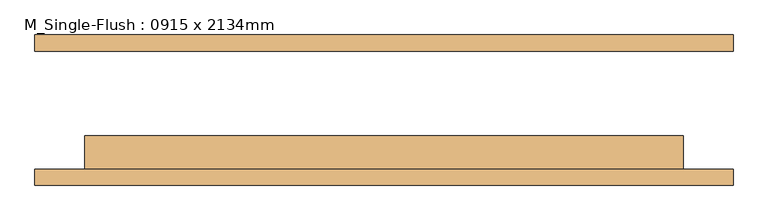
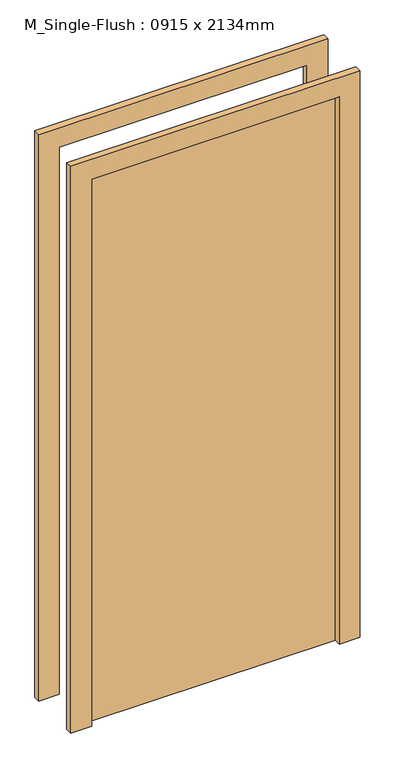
"""IFC4 building model written with IfcOpenShell, lengths in millimetres: door geometry, M_Single-Flush : 0915 x 2134mm."""

from ifc_helpers import new_model, si_unit, frame, origin, origin_with_axes, place, context, project, spatial, polyline, outline, extrude, source, transform, mapped, element, save


def m_single_flush_0915_x_2134mm_5c733ab1(model_context):
    return source(origin(), model_context, "Body", "SweptSolid", [
        extrude(outline(polyline([(2210.0, -533.5), (0.0, -533.5), (0.0, -457.5), (2134.0, -457.5), (2134.0, 457.5), (0.0, 457.5), (0.0, 533.5), (2210.0, 533.5), (2210.0, -533.5)])), frame((0.0, -115.0, 0.0), z_axis=(0.0, 1.0, 0.0), x_axis=(0.0, 0.0, 1.0)), (0.0, 0.0, 1.0), 25.0),
        extrude(outline(polyline([(2210.0, 533.5), (2210.0, -533.5), (0.0, -533.5), (0.0, -457.5), (2134.0, -457.5), (2134.0, 457.5), (0.0, 457.5), (0.0, 533.5), (2210.0, 533.5)])), frame((0.0, 90.0, 0.0), z_axis=(0.0, 1.0, 0.0), x_axis=(0.0, 0.0, 1.0)), (0.0, 0.0, 1.0), 25.0),
        extrude(outline(polyline([(457.5, -39.0), (457.5, -90.0), (-457.5, -90.0), (-457.5, -39.0), (457.5, -39.0)])), origin_with_axes(), (0.0, 0.0, 1.0), 2134.0),
    ])


if __name__ == "__main__":
    model = new_model("IFC4")
    model_context = context("Model", 3, world=origin())
    ifc_project = project(units=[si_unit("LENGTHUNIT", "METRE", prefix="MILLI")], contexts=[model_context])
    site = spatial("IfcSite", under=ifc_project)
    building = spatial("IfcBuilding", under=site)
    placement = place(None, origin())
    m_single_flush_0915_x_2134mm_shape = m_single_flush_0915_x_2134mm_5c733ab1(model_context)
    element("IfcDoor", 1, ObjectType="M_Single-Flush : 0915 x 2134mm", at=placement, inside=building, context=model_context, shape_type="MappedRepresentation", body=[
        mapped(m_single_flush_0915_x_2134mm_shape, transform((0.0, 0.0, 0.0), x_axis=(1.0, 0.0, 0.0), y_axis=(0.0, 1.0, 0.0), z_axis=(0.0, 0.0, 1.0))),
    ])
    save(model, "model.ifc")
